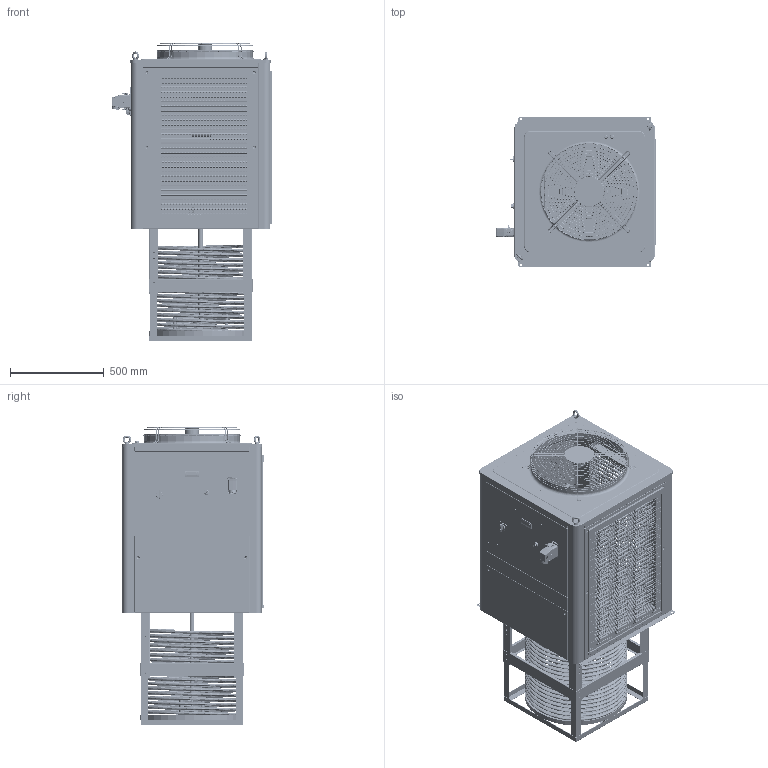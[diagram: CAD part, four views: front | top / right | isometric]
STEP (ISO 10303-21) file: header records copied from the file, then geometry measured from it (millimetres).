
FILE_DESCRIPTION (( 'STEP AP203' ), '1' );
FILE_NAME ('ECIK-120_EVAP_REV_06.STEP', '2026-03-23T11:04:04', ( '' ), ( '' ), 'SwSTEP 2.0', 'SolidWorks 2023', '' );
FILE_SCHEMA (( 'CONFIG_CONTROL_DESIGN' ));
Length unit declared in the file: millimetre
Products named in the file (63): VR-K5-00001_001; TE-EL-00007 - EW_971_230V.STEP; VR-K5-00001_001B; VR-2D-00050_000; 5S-ICQ-4HP-ICQ-3HP-1P-FB1.5p-____2P______-DCF-BK3P-____1; SELETTORE_NERO_BK; 5S-FD-20________-IIII-III-II-FB-KG-________; VR-K5-00002_000; 5S-ICQ-5-______-7; 5S-ICQ-5-____2-6; VR-K5-00001_001A; ECIK-120_EVAP_REV_06; CR-K5-00002_000A; corredo icq-5; 5S-FD-__5P________-500____; PG11_PARTE; CO-EL-00129; Gabbia telescopica ECIK 070-120-160_CONTRATTA; Targhetta sicurezza; CR-K6-00003_001; 8S-8HP-ICQ-4HP-ICQ-3HP-1P-FB1.5p-____2P______-DCF-BK3P-____; CR-K5-00002_000; ICQ-8P____1; SERPENTINA 200 ECIK; 5S-ICQ-4HP-ICQ-3HP-1P-FB1.5p-____; 5S-ICQ-5-____________; CR-K5-00002_000B; CR-AG-00022_000; ICQ-5J（方形盘管，双面冷凝器）(2); VR-K5-00004_000; 5S-ICQ-5-__________-3; 5S-ICQ-5-____3; CO-EL-00051; CR-K7-00001_000B; 5S-________; 5S-ICQ-4HP-ICQ-3HP-1P-1.5HP-____________; CR-K7-00002_000; 5S-ICQ-4HP-ICQ-3HP-1P-FB1.5p-____1.5P______-DCF-BK3P-____; 5S-III-________T1.5); 5S-FD-20________-IIII-III-II-II-500____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
Assembly tree (117 placements, depth 4):
  ECIK-120_EVAP_REV_06
    corredo icq-5
      CR-K5-00002_000
        CR-K5-00002_000C
        CR-K5-00002_000A
        CR-K5-00002_000B
      Targhetta sicurezza
      TE-EL-00007 - EW_971_230V.STEP
      SELETTORE_NERO_BK
      SE-RR-00025_000
      SELETTORE_PICCOLO 54
      VR-K5-00001_001
        VR-K5-00001_001A
        VR-K5-00001_001B  x2
      VR-K5-00002_000
      VR-K5-00004_000
      VR-K5-00003_000
    ICQ-5J（方形盘管，双面冷凝器）(2)
      5S-FD-__5P-__________
        5S-FD-__5P________-500____
        5S-FD-20________-IIII-III-II-FB-KG-________  x2
      5S-ICQ-5-____________  x2
        ICQ-8P____2
        ICQ-8P____1
        5S-ICQ-5-__________
        5S-ICQ-5-__________-3
      5S-ICQ-4HP-ICQ-3HP-1P-FB1.5p-____1.5P______-DCF-BK3P-____
      5S-ICQ-4HP-ICQ-3HP-1P-FB1.5p-____2P______-DCF-BK3P-____1  x2
      5S-ICQ-4HP-ICQ-3HP-1P-1.5HP-____________  x2
      5S-ICQ-4HP-ICQ-3HP-1P-1.5HP-____________-4  x2
      5S-ICQ-4HP-ICQ-3HP-1P-______-1.5HP  x2
      5S-ICQ-4HP-ICQ-3HP-1P-FB1.5p-____
      5S-ICQ-4HP-ICQ-3HP-1P-FB1.5p-____2P______-DCF-BK3P-______(____)
      5S-FD-20________-IIII-III-II-II-500____
      eyebolts gb_GB_FASTENER_SCREWS_FRS M10-N  x2
      5S-________  x2
      5S-____________2.0______
      5S-FD-20________-IIII-III-II-II-R32-780X780-______  x4
      5S-III-________T1.5)  x2
      5S-ICQ-5-______
      5S-ICQ-5J__________  x2
      8S-ICQ-8-____1
      5S-ICQ-5-____2-6
      5S-ICQ-5-____3
      8S-8HP-ICQ-4HP-ICQ-3HP-1P-FB1.5p-____2P______-DCF-BK3P-____  x2
      5S-ICQ-5-______-7
    SERPENTINA 200 ECIK
    Gabbia telescopica ECIK 070-120-160_CONTRATTA
      CR-K6-00003_001
      CR-K6-00003_001
      CR-K6-00003_001
      CR-K6-00003_001
      CR-K7-00001_000
        CR-K7-00001_000A  x4
        CR-K7-00001_000C  x4
        CR-K7-00001_000B
      CR-K7-00002_000  x4
    CR-AG-00022_000
    AGITATORE DISCO
    PG11_PARTE  x2
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Bounding box: 858 x 800.8 x 1597.68 mm (x, y, z)
Volume: 23440503.3 mm3; surface area: 19823619.9 mm2
Topology: 162 solids, 172 shells, 32880 faces, 92516 edges, 60172 vertices
Faces by surface type: plane 25744, cylinder 4315, torus 2160, bspline 397, cone 261, sphere 3
Entity records: 640621 total; most frequent: CARTESIAN_POINT 160973, ORIENTED_EDGE 99988, DIRECTION 91084, EDGE_CURVE 50123, LINE 40818, VECTOR 40818, VERTEX_POINT 32449, AXIS2_PLACEMENT_3D 25133
